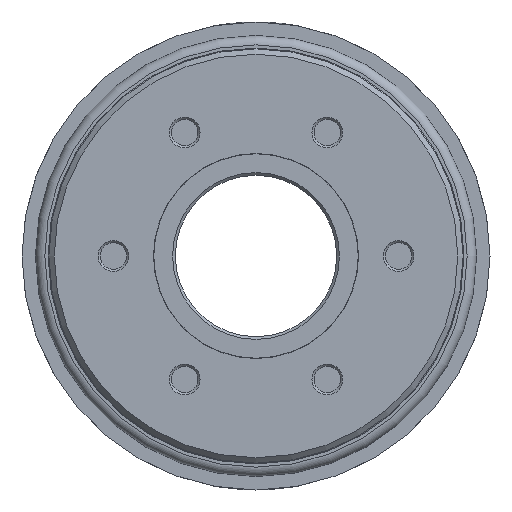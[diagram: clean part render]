
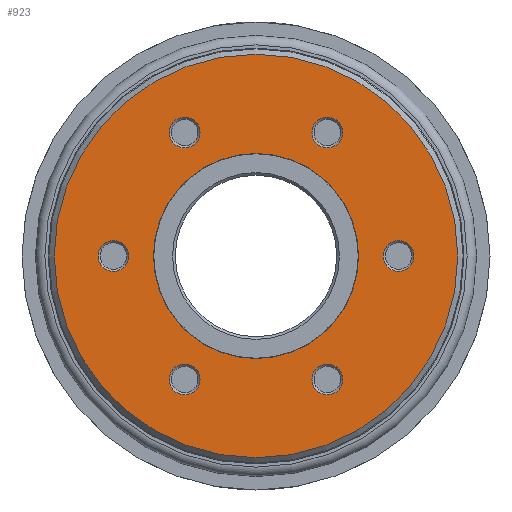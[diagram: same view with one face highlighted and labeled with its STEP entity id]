
A CAD part, left-side view. The second image highlights one B-rep face of the part: STEP entity #923.
In plain terms, the highlighted planar face has unit normal (-1, 0, 0).
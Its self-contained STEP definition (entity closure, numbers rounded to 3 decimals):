
#923 = ADVANCED_FACE( '', ( #2306, #2307, #2308, #2309, #2310, #2311, #2312, #2313 ), #2314, .T. );
#2306 = FACE_OUTER_BOUND( '', #4305, .T. );
#2307 = FACE_BOUND( '', #4306, .T. );
#2308 = FACE_BOUND( '', #4307, .T. );
#2309 = FACE_BOUND( '', #4308, .T. );
#2310 = FACE_BOUND( '', #4309, .T. );
#2311 = FACE_BOUND( '', #4310, .T. );
#2312 = FACE_BOUND( '', #4311, .T. );
#2313 = FACE_BOUND( '', #4312, .T. );
#2314 = PLANE( '', #4313 );
#4305 = EDGE_LOOP( '', ( #6991 ) );
#4306 = EDGE_LOOP( '', ( #6992 ) );
#4307 = EDGE_LOOP( '', ( #6993 ) );
#4308 = EDGE_LOOP( '', ( #6994 ) );
#4309 = EDGE_LOOP( '', ( #6995 ) );
#4310 = EDGE_LOOP( '', ( #6996 ) );
#4311 = EDGE_LOOP( '', ( #6997 ) );
#4312 = EDGE_LOOP( '', ( #6998 ) );
#4313 = AXIS2_PLACEMENT_3D( '', #6999, #7000, #7001 );
#6991 = ORIENTED_EDGE( '', *, *, #9947, .T. );
#6992 = ORIENTED_EDGE( '', *, *, #10475, .T. );
#6993 = ORIENTED_EDGE( '', *, *, #10476, .T. );
#6994 = ORIENTED_EDGE( '', *, *, #10477, .T. );
#6995 = ORIENTED_EDGE( '', *, *, #10183, .T. );
#6996 = ORIENTED_EDGE( '', *, *, #10478, .T. );
#6997 = ORIENTED_EDGE( '', *, *, #10479, .T. );
#6998 = ORIENTED_EDGE( '', *, *, #10323, .T. );
#6999 = CARTESIAN_POINT( '', ( -52.501, -19.25, 33.342 ) );
#7000 = DIRECTION( '', ( -1., 0., 0. ) );
#7001 = DIRECTION( '', ( 0., -0.866, -0.5 ) );
#9947 = EDGE_CURVE( '', #11591, #11591, #11592, .T. );
#10183 = EDGE_CURVE( '', #11977, #11977, #11978, .T. );
#10323 = EDGE_CURVE( '', #12196, #12196, #12197, .F. );
#10475 = EDGE_CURVE( '', #12427, #12427, #12428, .T. );
#10476 = EDGE_CURVE( '', #12429, #12429, #12430, .T. );
#10477 = EDGE_CURVE( '', #12431, #12431, #12432, .T. );
#10478 = EDGE_CURVE( '', #12433, #12433, #12434, .T. );
#10479 = EDGE_CURVE( '', #12435, #12435, #12436, .T. );
#11591 = VERTEX_POINT( '', #13857 );
#11592 = CIRCLE( '', #13858, 37.5 );
#11977 = VERTEX_POINT( '', #14330 );
#11978 = CIRCLE( '', #14331, 2.859 );
#12196 = VERTEX_POINT( '', #14608 );
#12197 = CIRCLE( '', #14609, 19.05 );
#12427 = VERTEX_POINT( '', #14894 );
#12428 = CIRCLE( '', #14895, 2.859 );
#12429 = VERTEX_POINT( '', #14896 );
#12430 = CIRCLE( '', #14897, 2.859 );
#12431 = VERTEX_POINT( '', #14898 );
#12432 = CIRCLE( '', #14899, 2.859 );
#12433 = VERTEX_POINT( '', #14900 );
#12434 = CIRCLE( '', #14901, 2.859 );
#12435 = VERTEX_POINT( '', #14902 );
#12436 = CIRCLE( '', #14903, 2.859 );
#13857 = CARTESIAN_POINT( '', ( -52.501, 18.75, -32.476 ) );
#13858 = AXIS2_PLACEMENT_3D( '', #16420, #16421, #16422 );
#14330 = CARTESIAN_POINT( '', ( -52.501, -11.821, -20.474 ) );
#14331 = AXIS2_PLACEMENT_3D( '', #16762, #16763, #16764 );
#14608 = CARTESIAN_POINT( '', ( -52.501, -19.05, 0. ) );
#14609 = AXIS2_PLACEMENT_3D( '', #16941, #16942, #16943 );
#14894 = CARTESIAN_POINT( '', ( -52.501, 11.821, 20.474 ) );
#14895 = AXIS2_PLACEMENT_3D( '', #17168, #17169, #17170 );
#14896 = CARTESIAN_POINT( '', ( -52.501, 23.642, 0. ) );
#14897 = AXIS2_PLACEMENT_3D( '', #17171, #17172, #17173 );
#14898 = CARTESIAN_POINT( '', ( -52.501, 11.821, -20.474 ) );
#14899 = AXIS2_PLACEMENT_3D( '', #17174, #17175, #17176 );
#14900 = CARTESIAN_POINT( '', ( -52.501, -23.642, 0. ) );
#14901 = AXIS2_PLACEMENT_3D( '', #17177, #17178, #17179 );
#14902 = CARTESIAN_POINT( '', ( -52.501, -11.821, 20.474 ) );
#14903 = AXIS2_PLACEMENT_3D( '', #17180, #17181, #17182 );
#16420 = CARTESIAN_POINT( '', ( -52.501, 0., 0. ) );
#16421 = DIRECTION( '', ( -1., 0., 0. ) );
#16422 = DIRECTION( '', ( 0., 0.5, -0.866 ) );
#16762 = CARTESIAN_POINT( '', ( -52.501, -13.25, -22.95 ) );
#16763 = DIRECTION( '', ( 1., 0., 0. ) );
#16764 = DIRECTION( '', ( 0., 0.5, 0.866 ) );
#16941 = CARTESIAN_POINT( '', ( -52.501, 0., 0. ) );
#16942 = DIRECTION( '', ( -1., 0., 0. ) );
#16943 = DIRECTION( '', ( 0., -1., 0. ) );
#17168 = CARTESIAN_POINT( '', ( -52.501, 13.25, 22.95 ) );
#17169 = DIRECTION( '', ( 1., 0., 0. ) );
#17170 = DIRECTION( '', ( 0., -0.5, -0.866 ) );
#17171 = CARTESIAN_POINT( '', ( -52.501, 26.5, 0. ) );
#17172 = DIRECTION( '', ( 1., 0., 0. ) );
#17173 = DIRECTION( '', ( 0., -1., 0. ) );
#17174 = CARTESIAN_POINT( '', ( -52.501, 13.25, -22.95 ) );
#17175 = DIRECTION( '', ( 1., 0., 0. ) );
#17176 = DIRECTION( '', ( 0., -0.5, 0.866 ) );
#17177 = CARTESIAN_POINT( '', ( -52.501, -26.5, 0. ) );
#17178 = DIRECTION( '', ( 1., 0., 0. ) );
#17179 = DIRECTION( '', ( 0., 1., 0. ) );
#17180 = CARTESIAN_POINT( '', ( -52.501, -13.25, 22.95 ) );
#17181 = DIRECTION( '', ( 1., 0., 0. ) );
#17182 = DIRECTION( '', ( 0., 0.5, -0.866 ) );
